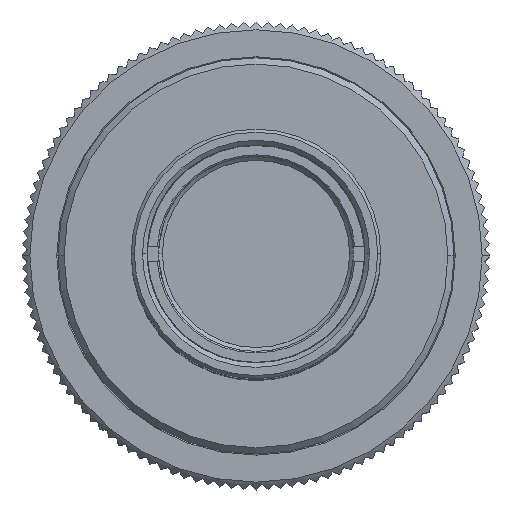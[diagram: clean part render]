
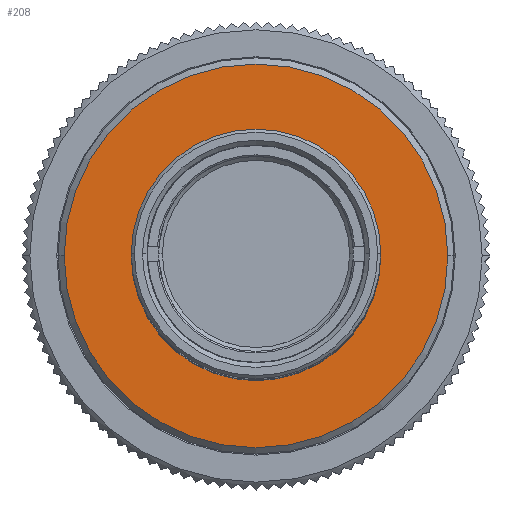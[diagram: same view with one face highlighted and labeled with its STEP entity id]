
A CAD part, top view. The second image highlights one B-rep face of the part: STEP entity #208.
In plain terms, the highlighted planar face has unit normal (0, 0, 1).
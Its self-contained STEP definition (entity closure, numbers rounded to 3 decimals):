
#201 = ORIENTED_EDGE ( 'NONE', *, *, #383, .F. ) ;
#204 = EDGE_LOOP ( 'NONE', ( #210, #248 ) ) ;
#208 = ADVANCED_FACE ( 'NONE', ( #6768, #6781 ), #6758, .F. ) ;
#210 = ORIENTED_EDGE ( 'NONE', *, *, #6400, .T. ) ;
#211 = EDGE_LOOP ( 'NONE', ( #201, #306 ) ) ;
#248 = ORIENTED_EDGE ( 'NONE', *, *, #545, .T. ) ;
#301 = EDGE_CURVE ( 'NONE', #361, #400, #6663, .T. ) ;
#306 = ORIENTED_EDGE ( 'NONE', *, *, #301, .F. ) ;
#361 = VERTEX_POINT ( 'NONE', #4154 ) ;
#383 = EDGE_CURVE ( 'NONE', #400, #361, #4152, .T. ) ;
#400 = VERTEX_POINT ( 'NONE', #4218 ) ;
#453 = VERTEX_POINT ( 'NONE', #4132 ) ;
#524 = VERTEX_POINT ( 'NONE', #4162 ) ;
#545 = EDGE_CURVE ( 'NONE', #524, #453, #4301, .T. ) ;
#1105 = AXIS2_PLACEMENT_3D ( 'NONE', #1157, #1156, #1155 ) ;
#1117 = CIRCLE ( 'NONE', #1105, 12.3 ) ;
#1155 = DIRECTION ( 'NONE',  ( -1., 0., 0. ) ) ;
#1156 = DIRECTION ( 'NONE',  ( 0., 0., 1. ) ) ;
#1157 = CARTESIAN_POINT ( 'NONE',  ( 0., 0., -27.27 ) ) ;
#4132 = CARTESIAN_POINT ( 'NONE',  ( -12.3, 0., -27.27 ) ) ;
#4152 = CIRCLE ( 'NONE', #4250, 8. ) ;
#4154 = CARTESIAN_POINT ( 'NONE',  ( -8., 0., -27.27 ) ) ;
#4162 = CARTESIAN_POINT ( 'NONE',  ( 12.3, 0., -27.27 ) ) ;
#4182 = CARTESIAN_POINT ( 'NONE',  ( 0., 0., -27.27 ) ) ;
#4218 = CARTESIAN_POINT ( 'NONE',  ( 8., 0., -27.27 ) ) ;
#4241 = DIRECTION ( 'NONE',  ( 1., 0., 0. ) ) ;
#4242 = DIRECTION ( 'NONE',  ( 0., 0., 1. ) ) ;
#4250 = AXIS2_PLACEMENT_3D ( 'NONE', #4260, #4242, #4241 ) ;
#4260 = CARTESIAN_POINT ( 'NONE',  ( 0., 0., -27.27 ) ) ;
#4293 = DIRECTION ( 'NONE',  ( -1., 0., 0. ) ) ;
#4294 = DIRECTION ( 'NONE',  ( 0., 0., 1. ) ) ;
#4301 = CIRCLE ( 'NONE', #4308, 12.3 ) ;
#4308 = AXIS2_PLACEMENT_3D ( 'NONE', #4182, #4294, #4293 ) ;
#6400 = EDGE_CURVE ( 'NONE', #453, #524, #1117, .T. ) ;
#6658 = AXIS2_PLACEMENT_3D ( 'NONE', #6692, #6691, #6690 ) ;
#6663 = CIRCLE ( 'NONE', #6658, 8. ) ;
#6690 = DIRECTION ( 'NONE',  ( 1., 0., 0. ) ) ;
#6691 = DIRECTION ( 'NONE',  ( 0., 0., 1. ) ) ;
#6692 = CARTESIAN_POINT ( 'NONE',  ( 0., 0., -27.27 ) ) ;
#6757 = DIRECTION ( 'NONE',  ( -1., 0., 0. ) ) ;
#6758 = PLANE ( 'NONE',  #6765 ) ;
#6765 = AXIS2_PLACEMENT_3D ( 'NONE', #6779, #6767, #6757 ) ;
#6767 = DIRECTION ( 'NONE',  ( 0., 0., -1. ) ) ;
#6768 = FACE_OUTER_BOUND ( 'NONE', #204, .T. ) ;
#6779 = CARTESIAN_POINT ( 'NONE',  ( 0., 8., -27.27 ) ) ;
#6781 = FACE_BOUND ( 'NONE', #211, .T. ) ;
